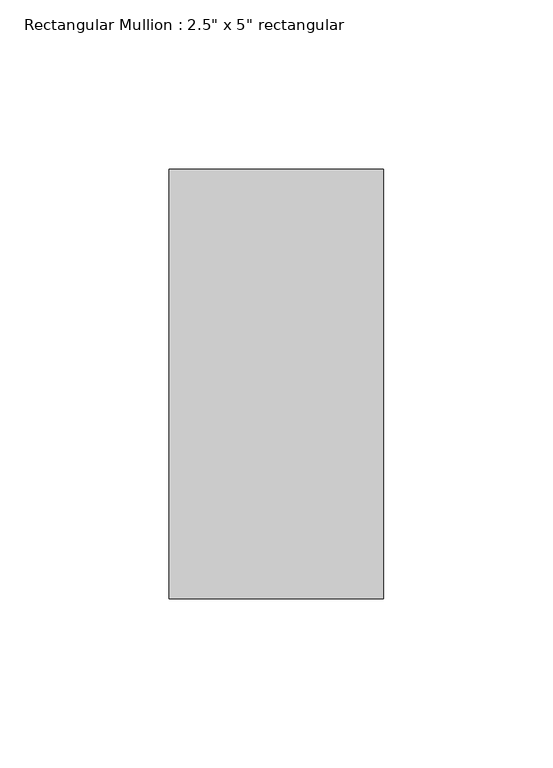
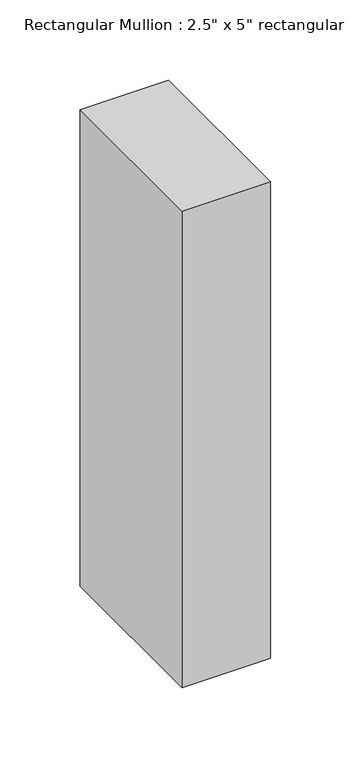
"""IFC4 building model written with IfcOpenShell, lengths in millimetres: member geometry."""

from ifc_helpers import new_model, si_unit, frame, origin, place, context, project, spatial, polyline, outline, extrude, source, transform, mapped, element, save


def member_af2f84b9(model_context):
    return source(origin(), model_context, "Body", "SweptSolid", [
        extrude(outline(polyline([(31.75, 63.5), (31.75, -63.5), (-31.75, -63.5), (-31.75, 63.5), (31.75, 63.5)])), frame((0.0, 0.0, -361.95), z_axis=(0.0, 0.0, 1.0), x_axis=(1.0, 0.0, 0.0)), (0.0, 0.0, 1.0), 361.95),
    ])


if __name__ == "__main__":
    model = new_model("IFC4")
    model_context = context("Model", 3, world=origin())
    ifc_project = project(units=[si_unit("LENGTHUNIT", "METRE", prefix="MILLI")], contexts=[model_context])
    site = spatial("IfcSite", under=ifc_project)
    building = spatial("IfcBuilding", under=site)
    placement = place(None, origin())
    member_shape = member_af2f84b9(model_context)
    element("IfcMember", 1, ObjectType="Rectangular Mullion : 2.5\" x 5\" rectangular", at=placement, inside=building, context=model_context, shape_type="MappedRepresentation", body=[
        mapped(member_shape, transform((0.0, 0.0, 0.0), x_axis=(1.0, 0.0, 0.0), y_axis=(0.0, 1.0, 0.0), z_axis=(0.0, 0.0, 1.0))),
    ])
    save(model, "model.ifc")
